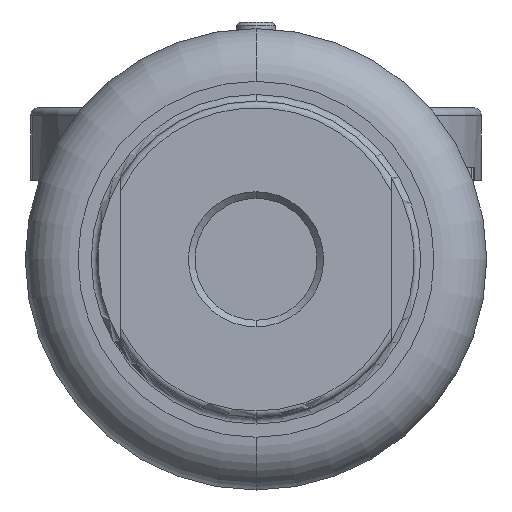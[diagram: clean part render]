
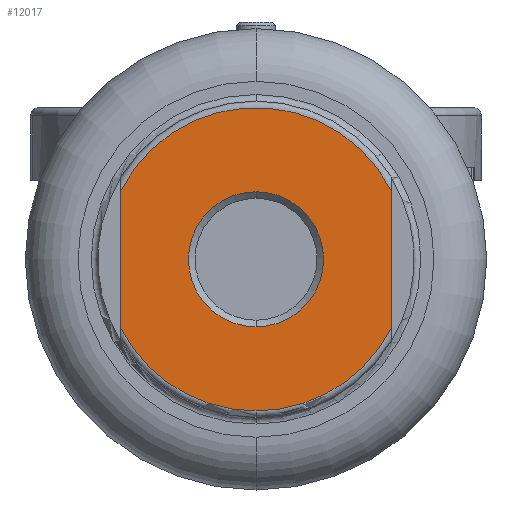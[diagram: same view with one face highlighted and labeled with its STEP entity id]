
A CAD part, front view. The second image highlights one B-rep face of the part: STEP entity #12017.
In plain terms, the highlighted planar face has unit normal (0, -1, 0).
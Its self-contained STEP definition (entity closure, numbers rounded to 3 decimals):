
#328 = CIRCLE ( 'NONE', #1722, 23. ) ;
#453 = EDGE_CURVE ( 'NONE', #12719, #708, #8536, .T. ) ;
#708 = VERTEX_POINT ( 'NONE', #13850 ) ;
#1086 = DIRECTION ( 'NONE',  ( 0., -1., 0. ) ) ;
#1259 = DIRECTION ( 'NONE',  ( 0., 1., 0. ) ) ;
#1722 = AXIS2_PLACEMENT_3D ( 'NONE', #7680, #1086, #6390 ) ;
#2111 = CARTESIAN_POINT ( 'NONE',  ( -10.212, -45.303, 89.439 ) ) ;
#2239 = ORIENTED_EDGE ( 'NONE', *, *, #7747, .T. ) ;
#2258 = EDGE_CURVE ( 'NONE', #11241, #7260, #9395, .T. ) ;
#2329 = LINE ( 'NONE', #4052, #11202 ) ;
#2381 = ORIENTED_EDGE ( 'NONE', *, *, #453, .T. ) ;
#2492 = DIRECTION ( 'NONE',  ( 0., -1., 0. ) ) ;
#2733 = AXIS2_PLACEMENT_3D ( 'NONE', #11851, #2492, #5276 ) ;
#2838 = VECTOR ( 'NONE', #9403, 1000. ) ;
#2892 = EDGE_CURVE ( 'NONE', #5829, #7967, #328, .T. ) ;
#3014 = VERTEX_POINT ( 'NONE', #14212 ) ;
#3836 = CARTESIAN_POINT ( 'NONE',  ( 10.288, -45.303, 79.011 ) ) ;
#4052 = CARTESIAN_POINT ( 'NONE',  ( 30.788, -45.303, 79.011 ) ) ;
#4095 = DIRECTION ( 'NONE',  ( 0., 0., -1. ) ) ;
#4124 = CARTESIAN_POINT ( 'NONE',  ( -10.212, -45.303, 79.011 ) ) ;
#4253 = EDGE_CURVE ( 'NONE', #708, #12719, #4785, .T. ) ;
#4785 = CIRCLE ( 'NONE', #11411, 10.25 ) ;
#5224 = ORIENTED_EDGE ( 'NONE', *, *, #4253, .T. ) ;
#5276 = DIRECTION ( 'NONE',  ( 0., 0., -1. ) ) ;
#5358 = CARTESIAN_POINT ( 'NONE',  ( 10.288, -45.303, 79.011 ) ) ;
#5667 = CARTESIAN_POINT ( 'NONE',  ( 10.288, -45.303, 56.011 ) ) ;
#5713 = DIRECTION ( 'NONE',  ( 1., 0., 0. ) ) ;
#5829 = VERTEX_POINT ( 'NONE', #5667 ) ;
#6134 = DIRECTION ( 'NONE',  ( 0., 0., 1. ) ) ;
#6281 = CARTESIAN_POINT ( 'NONE',  ( 30.788, -45.303, 89.439 ) ) ;
#6390 = DIRECTION ( 'NONE',  ( 0., 0., -1. ) ) ;
#6624 = AXIS2_PLACEMENT_3D ( 'NONE', #3836, #9298, #6134 ) ;
#7202 = ORIENTED_EDGE ( 'NONE', *, *, #10517, .T. ) ;
#7260 = VERTEX_POINT ( 'NONE', #2111 ) ;
#7617 = CIRCLE ( 'NONE', #8434, 23. ) ;
#7680 = CARTESIAN_POINT ( 'NONE',  ( 10.288, -45.303, 79.011 ) ) ;
#7747 = EDGE_CURVE ( 'NONE', #7967, #11241, #2329, .T. ) ;
#7967 = VERTEX_POINT ( 'NONE', #12923 ) ;
#8074 = CARTESIAN_POINT ( 'NONE',  ( 10.288, -45.303, 79.011 ) ) ;
#8160 = EDGE_LOOP ( 'NONE', ( #8274, #7202, #17034, #10178, #2239 ) ) ;
#8274 = ORIENTED_EDGE ( 'NONE', *, *, #2258, .T. ) ;
#8434 = AXIS2_PLACEMENT_3D ( 'NONE', #8074, #15647, #4095 ) ;
#8534 = DIRECTION ( 'NONE',  ( 0., 0., 1. ) ) ;
#8536 = CIRCLE ( 'NONE', #6624, 10.25 ) ;
#9298 = DIRECTION ( 'NONE',  ( 0., 1., 0. ) ) ;
#9395 = CIRCLE ( 'NONE', #2733, 23. ) ;
#9403 = DIRECTION ( 'NONE',  ( 0., 0., -1. ) ) ;
#9510 = DIRECTION ( 'NONE',  ( 0., 1., 0. ) ) ;
#9664 = AXIS2_PLACEMENT_3D ( 'NONE', #5358, #9510, #5713 ) ;
#9800 = EDGE_LOOP ( 'NONE', ( #5224, #2381 ) ) ;
#10178 = ORIENTED_EDGE ( 'NONE', *, *, #2892, .T. ) ;
#10517 = EDGE_CURVE ( 'NONE', #7260, #3014, #16007, .T. ) ;
#11075 = EDGE_CURVE ( 'NONE', #3014, #5829, #7617, .T. ) ;
#11202 = VECTOR ( 'NONE', #11677, 1000. ) ;
#11241 = VERTEX_POINT ( 'NONE', #6281 ) ;
#11411 = AXIS2_PLACEMENT_3D ( 'NONE', #11742, #1259, #8534 ) ;
#11677 = DIRECTION ( 'NONE',  ( 0., 0., 1. ) ) ;
#11742 = CARTESIAN_POINT ( 'NONE',  ( 10.288, -45.303, 79.011 ) ) ;
#11851 = CARTESIAN_POINT ( 'NONE',  ( 10.288, -45.303, 79.011 ) ) ;
#12017 = ADVANCED_FACE ( 'NONE', ( #14564, #13289 ), #17095, .F. ) ;
#12719 = VERTEX_POINT ( 'NONE', #15862 ) ;
#12923 = CARTESIAN_POINT ( 'NONE',  ( 30.788, -45.303, 68.583 ) ) ;
#13289 = FACE_OUTER_BOUND ( 'NONE', #8160, .T. ) ;
#13850 = CARTESIAN_POINT ( 'NONE',  ( 10.288, -45.303, 68.761 ) ) ;
#14212 = CARTESIAN_POINT ( 'NONE',  ( -10.212, -45.303, 68.583 ) ) ;
#14564 = FACE_BOUND ( 'NONE', #9800, .T. ) ;
#15647 = DIRECTION ( 'NONE',  ( 0., -1., 0. ) ) ;
#15862 = CARTESIAN_POINT ( 'NONE',  ( 10.288, -45.303, 89.261 ) ) ;
#16007 = LINE ( 'NONE', #4124, #2838 ) ;
#17034 = ORIENTED_EDGE ( 'NONE', *, *, #11075, .T. ) ;
#17095 = PLANE ( 'NONE',  #9664 ) ;
